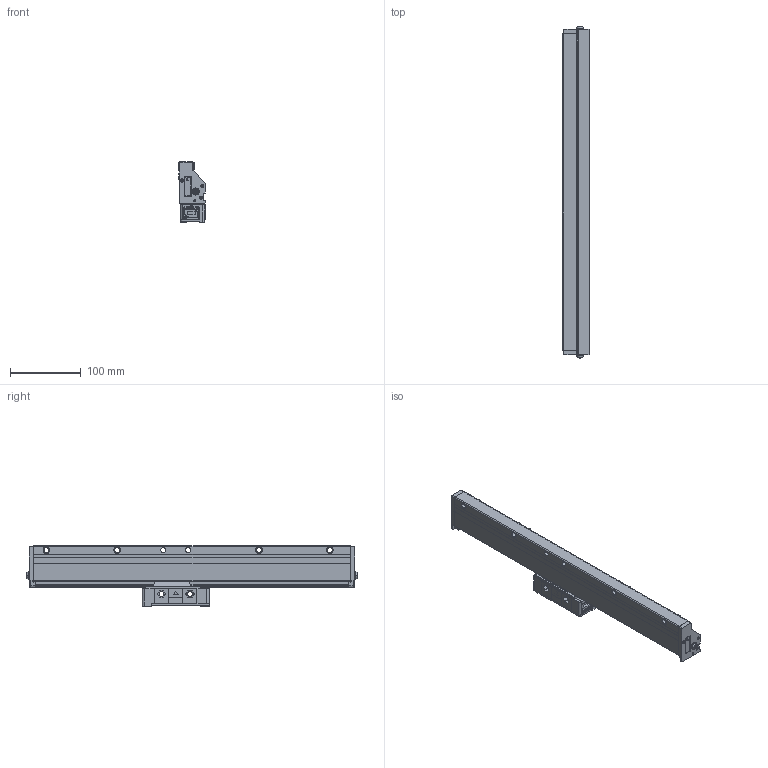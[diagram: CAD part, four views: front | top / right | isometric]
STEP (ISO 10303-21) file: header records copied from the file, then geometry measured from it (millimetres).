
FILE_DESCRIPTION(('Creo Elements/Direct Modeling STEP Export'),'2;1');
FILE_NAME('AT1153-340.stp','2018-10-12T10:56:37',(''),(''),'Creo Elements/Direct Modeling STEP processor for AP214 (Solid Model)','Creo Elements/Direct Modeling 18.1B 29-Sep-2012 (C) Parametric Technology GmbH','');
FILE_SCHEMA(('AUTOMOTIVE_DESIGN { 1 0 10303 214 1 1 1 1 }'));
Length unit declared in the file: millimetre
Products named in the file (3): Scale_340; DetectorHead; AT1153-340
Assembly tree (2 placements, depth 2):
  AT1153-340
    DetectorHead
    Scale_340
Bounding box: 37 x 468.44 x 85 mm (x, y, z)
Volume: 75076.9 mm3; surface area: 119754.9 mm2
Topology: 1 solids, 2 shells, 2555 faces, 6714 edges, 4343 vertices
Faces by surface type: plane 1578, cylinder 775, cone 100, torus 69, bspline 13, sphere 12, extrusion 8
Entity records: 81366 total; most frequent: CARTESIAN_POINT 15027, ORIENTED_EDGE 13430, DIRECTION 12761, EDGE_CURVE 6700, VECTOR 4557, LINE 4549, VERTEX_POINT 4343, AXIS2_PLACEMENT_3D 4102
